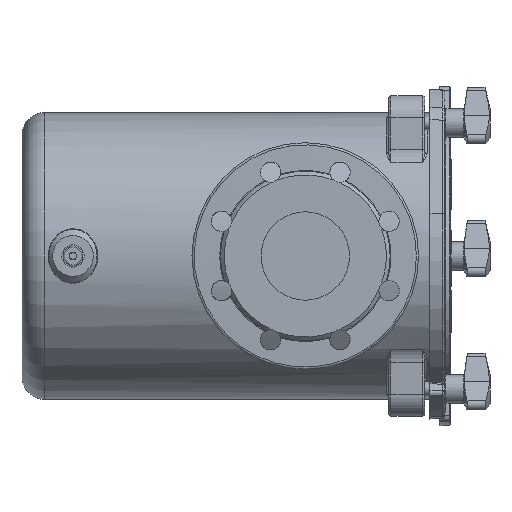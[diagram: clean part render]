
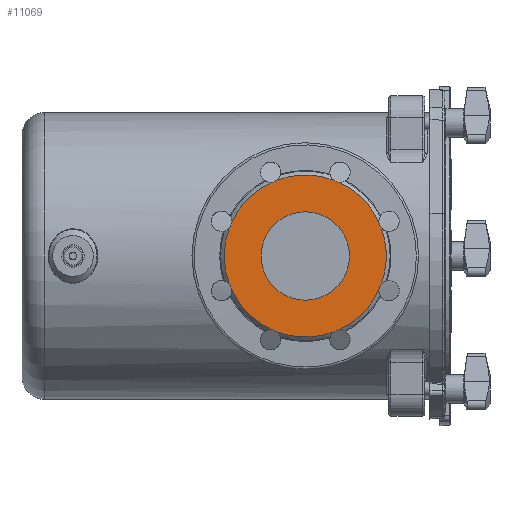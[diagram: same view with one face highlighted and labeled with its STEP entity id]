
A CAD part, left-side view. The second image highlights one B-rep face of the part: STEP entity #11069.
In plain terms, the highlighted planar face has unit normal (-1, 0, 0).
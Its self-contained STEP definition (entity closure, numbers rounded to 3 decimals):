
#363=CIRCLE('',#11562,39.);
#401=CIRCLE('',#11622,71.5);
#407=CIRCLE('',#11632,71.5);
#408=CIRCLE('',#11634,71.5);
#413=CIRCLE('',#11642,71.5);
#414=CIRCLE('',#11644,71.5);
#417=CIRCLE('',#11649,71.5);
#418=CIRCLE('',#11651,9.);
#419=CIRCLE('',#11652,71.5);
#420=CIRCLE('',#11653,9.);
#421=CIRCLE('',#11654,9.);
#422=CIRCLE('',#11655,9.);
#423=CIRCLE('',#11656,9.);
#424=CIRCLE('',#11657,9.);
#425=CIRCLE('',#11658,9.);
#426=CIRCLE('',#11659,9.);
#427=CIRCLE('',#11660,71.5);
#1548=ORIENTED_EDGE('',*,*,#3787,.T.);
#1549=ORIENTED_EDGE('',*,*,#3788,.F.);
#1550=ORIENTED_EDGE('',*,*,#3789,.T.);
#1551=ORIENTED_EDGE('',*,*,#3748,.F.);
#1552=ORIENTED_EDGE('',*,*,#3790,.T.);
#1553=ORIENTED_EDGE('',*,*,#3776,.F.);
#1554=ORIENTED_EDGE('',*,*,#3791,.T.);
#1555=ORIENTED_EDGE('',*,*,#3779,.F.);
#1556=ORIENTED_EDGE('',*,*,#3792,.T.);
#1557=ORIENTED_EDGE('',*,*,#3762,.F.);
#1558=ORIENTED_EDGE('',*,*,#3793,.T.);
#1559=ORIENTED_EDGE('',*,*,#3764,.F.);
#1560=ORIENTED_EDGE('',*,*,#3794,.T.);
#1561=ORIENTED_EDGE('',*,*,#3786,.F.);
#1562=ORIENTED_EDGE('',*,*,#3795,.T.);
#1563=ORIENTED_EDGE('',*,*,#3796,.F.);
#1564=ORIENTED_EDGE('',*,*,#3668,.T.);
#3668=EDGE_CURVE('',#4810,#4810,#363,.T.);
#3748=EDGE_CURVE('',#4866,#4867,#401,.T.);
#3762=EDGE_CURVE('',#4878,#4877,#407,.T.);
#3764=EDGE_CURVE('',#4879,#4880,#408,.T.);
#3776=EDGE_CURVE('',#4890,#4889,#413,.T.);
#3779=EDGE_CURVE('',#4892,#4891,#414,.T.);
#3786=EDGE_CURVE('',#4898,#4897,#417,.T.);
#3787=EDGE_CURVE('',#4899,#4900,#418,.T.);
#3788=EDGE_CURVE('',#4901,#4900,#419,.T.);
#3789=EDGE_CURVE('',#4901,#4867,#420,.T.);
#3790=EDGE_CURVE('',#4866,#4889,#421,.T.);
#3791=EDGE_CURVE('',#4890,#4891,#422,.T.);
#3792=EDGE_CURVE('',#4892,#4877,#423,.T.);
#3793=EDGE_CURVE('',#4878,#4880,#424,.T.);
#3794=EDGE_CURVE('',#4879,#4897,#425,.T.);
#3795=EDGE_CURVE('',#4898,#4902,#426,.T.);
#3796=EDGE_CURVE('',#4899,#4902,#427,.T.);
#4810=VERTEX_POINT('',#14274);
#4866=VERTEX_POINT('',#14630);
#4867=VERTEX_POINT('',#14631);
#4877=VERTEX_POINT('',#14681);
#4878=VERTEX_POINT('',#14687);
#4879=VERTEX_POINT('',#14695);
#4880=VERTEX_POINT('',#14697);
#4889=VERTEX_POINT('',#14739);
#4890=VERTEX_POINT('',#14745);
#4891=VERTEX_POINT('',#14753);
#4892=VERTEX_POINT('',#14759);
#4897=VERTEX_POINT('',#14782);
#4898=VERTEX_POINT('',#14788);
#4899=VERTEX_POINT('',#14792);
#4900=VERTEX_POINT('',#14793);
#4901=VERTEX_POINT('',#14795);
#4902=VERTEX_POINT('',#14803);
#6152=EDGE_LOOP('',(#1548,#1549,#1550,#1551,#1552,#1553,#1554,#1555,#1556,
#1557,#1558,#1559,#1560,#1561,#1562,#1563));
#6153=EDGE_LOOP('',(#1564));
#6791=FACE_BOUND('',#6152,.T.);
#6792=FACE_BOUND('',#6153,.T.);
#7374=PLANE('',#11650);
#11069=ADVANCED_FACE('',(#6791,#6792),#7374,.F.);
#11562=AXIS2_PLACEMENT_3D('',#14273,#12390,#12391);
#11622=AXIS2_PLACEMENT_3D('',#14629,#12510,#12511);
#11632=AXIS2_PLACEMENT_3D('',#14688,#12530,#12531);
#11634=AXIS2_PLACEMENT_3D('',#14696,#12534,#12535);
#11642=AXIS2_PLACEMENT_3D('',#14746,#12550,#12551);
#11644=AXIS2_PLACEMENT_3D('',#14760,#12554,#12555);
#11649=AXIS2_PLACEMENT_3D('',#14789,#12564,#12565);
#11650=AXIS2_PLACEMENT_3D('',#14790,#12566,#12567);
#11651=AXIS2_PLACEMENT_3D('',#14791,#12568,#12569);
#11652=AXIS2_PLACEMENT_3D('',#14794,#12570,#12571);
#11653=AXIS2_PLACEMENT_3D('',#14796,#12572,#12573);
#11654=AXIS2_PLACEMENT_3D('',#14797,#12574,#12575);
#11655=AXIS2_PLACEMENT_3D('',#14798,#12576,#12577);
#11656=AXIS2_PLACEMENT_3D('',#14799,#12578,#12579);
#11657=AXIS2_PLACEMENT_3D('',#14800,#12580,#12581);
#11658=AXIS2_PLACEMENT_3D('',#14801,#12582,#12583);
#11659=AXIS2_PLACEMENT_3D('',#14802,#12584,#12585);
#11660=AXIS2_PLACEMENT_3D('',#14804,#12586,#12587);
#12390=DIRECTION('',(1.,0.,0.));
#12391=DIRECTION('',(0.,1.,0.));
#12510=DIRECTION('',(1.,0.,0.));
#12511=DIRECTION('',(0.,1.,0.));
#12530=DIRECTION('',(1.,0.,0.));
#12531=DIRECTION('',(0.,1.,0.));
#12534=DIRECTION('',(1.,0.,0.));
#12535=DIRECTION('',(0.,1.,0.));
#12550=DIRECTION('',(1.,0.,0.));
#12551=DIRECTION('',(0.,1.,0.));
#12554=DIRECTION('',(1.,0.,0.));
#12555=DIRECTION('',(0.,1.,0.));
#12564=DIRECTION('',(1.,0.,0.));
#12565=DIRECTION('',(0.,1.,0.));
#12566=DIRECTION('',(1.,0.,0.));
#12567=DIRECTION('',(0.,1.,0.));
#12568=DIRECTION('',(1.,0.,0.));
#12569=DIRECTION('',(0.,-0.707,0.707));
#12570=DIRECTION('',(1.,0.,0.));
#12571=DIRECTION('',(0.,1.,0.));
#12572=DIRECTION('',(1.,0.,0.));
#12573=DIRECTION('',(0.,0.,1.));
#12574=DIRECTION('',(1.,0.,0.));
#12575=DIRECTION('',(0.,0.707,0.707));
#12576=DIRECTION('',(1.,0.,0.));
#12577=DIRECTION('',(0.,1.,0.));
#12578=DIRECTION('',(1.,0.,0.));
#12579=DIRECTION('',(0.,0.707,-0.707));
#12580=DIRECTION('',(1.,0.,0.));
#12581=DIRECTION('',(0.,0.,-1.));
#12582=DIRECTION('',(1.,0.,0.));
#12583=DIRECTION('',(0.,-0.707,-0.707));
#12584=DIRECTION('',(1.,0.,0.));
#12585=DIRECTION('',(0.,-1.,0.));
#12586=DIRECTION('',(1.,0.,0.));
#12587=DIRECTION('',(0.,1.,0.));
#14273=CARTESIAN_POINT('',(-190.,113.,0.));
#14274=CARTESIAN_POINT('',(-190.,152.,0.));
#14629=CARTESIAN_POINT('',(-190.,113.,0.));
#14630=CARTESIAN_POINT('',(-190.,142.924,-64.937));
#14631=CARTESIAN_POINT('',(-190.,177.937,-29.924));
#14681=CARTESIAN_POINT('',(-190.,45.923,-24.758));
#14687=CARTESIAN_POINT('',(-190.,45.923,24.758));
#14688=CARTESIAN_POINT('',(-190.,113.,0.));
#14695=CARTESIAN_POINT('',(-190.,83.076,64.937));
#14696=CARTESIAN_POINT('',(-190.,113.,0.));
#14697=CARTESIAN_POINT('',(-190.,48.063,29.924));
#14739=CARTESIAN_POINT('',(-190.,137.758,-67.077));
#14745=CARTESIAN_POINT('',(-190.,88.242,-67.077));
#14746=CARTESIAN_POINT('',(-190.,113.,0.));
#14753=CARTESIAN_POINT('',(-190.,83.076,-64.937));
#14759=CARTESIAN_POINT('',(-190.,48.063,-29.924));
#14760=CARTESIAN_POINT('',(-190.,113.,0.));
#14782=CARTESIAN_POINT('',(-190.,88.242,67.077));
#14788=CARTESIAN_POINT('',(-190.,137.758,67.077));
#14789=CARTESIAN_POINT('',(-190.,113.,0.));
#14790=CARTESIAN_POINT('',(-190.,267.054,607.05));
#14791=CARTESIAN_POINT('',(-190.,186.91,30.615));
#14792=CARTESIAN_POINT('',(-190.,177.937,29.924));
#14793=CARTESIAN_POINT('',(-190.,180.077,24.758));
#14794=CARTESIAN_POINT('',(-190.,113.,0.));
#14795=CARTESIAN_POINT('',(-190.,180.077,-24.758));
#14796=CARTESIAN_POINT('',(-190.,186.91,-30.615));
#14797=CARTESIAN_POINT('',(-190.,143.615,-73.91));
#14798=CARTESIAN_POINT('',(-190.,82.385,-73.91));
#14799=CARTESIAN_POINT('',(-190.,39.09,-30.615));
#14800=CARTESIAN_POINT('',(-190.,39.09,30.615));
#14801=CARTESIAN_POINT('',(-190.,82.385,73.91));
#14802=CARTESIAN_POINT('',(-190.,143.615,73.91));
#14803=CARTESIAN_POINT('',(-190.,142.924,64.937));
#14804=CARTESIAN_POINT('',(-190.,113.,0.));
